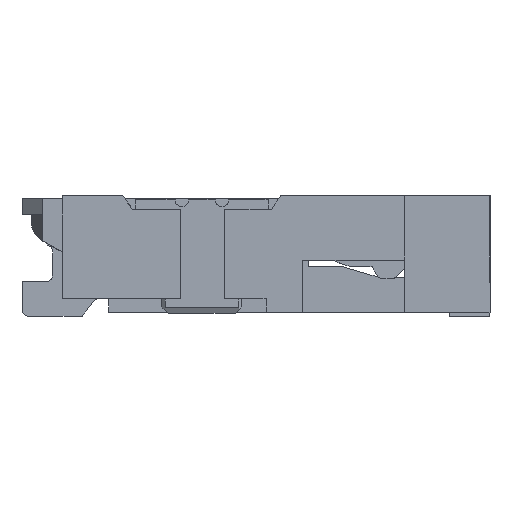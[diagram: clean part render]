
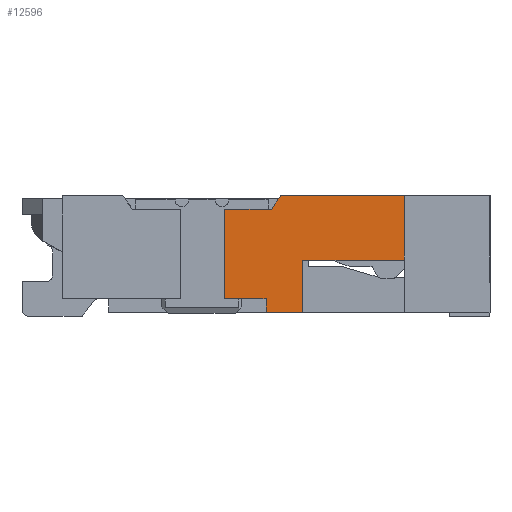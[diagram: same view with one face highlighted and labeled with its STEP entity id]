
A CAD part, front view. The second image highlights one B-rep face of the part: STEP entity #12596.
In plain terms, the highlighted planar face has unit normal (0, -1, 0).
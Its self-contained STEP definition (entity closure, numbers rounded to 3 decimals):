
#118 = VECTOR ( 'NONE', #11080, 1000. ) ;
#269 = LINE ( 'NONE', #13596, #10387 ) ;
#308 = CARTESIAN_POINT ( 'NONE',  ( -1.985, -2., 0.13 ) ) ;
#1067 = CARTESIAN_POINT ( 'NONE',  ( -1.4, -2., 0.42 ) ) ;
#1415 = VERTEX_POINT ( 'NONE', #5720 ) ;
#1537 = EDGE_CURVE ( 'NONE', #14572, #8796, #15223, .T. ) ;
#1563 = ORIENTED_EDGE ( 'NONE', *, *, #4198, .T. ) ;
#1825 = LINE ( 'NONE', #6548, #4688 ) ;
#1880 = DIRECTION ( 'NONE',  ( 0., 0., -1. ) ) ;
#1938 = EDGE_CURVE ( 'NONE', #5322, #13069, #269, .T. ) ;
#1959 = ORIENTED_EDGE ( 'NONE', *, *, #7680, .T. ) ;
#1979 = DIRECTION ( 'NONE',  ( 0., 0., -1. ) ) ;
#1993 = EDGE_CURVE ( 'NONE', #11945, #9592, #10000, .T. ) ;
#2047 = ORIENTED_EDGE ( 'NONE', *, *, #1993, .T. ) ;
#2225 = DIRECTION ( 'NONE',  ( 0., -1., 0. ) ) ;
#2317 = CARTESIAN_POINT ( 'NONE',  ( -1.4, -2., 0.03 ) ) ;
#2734 = EDGE_CURVE ( 'NONE', #8796, #9592, #14679, .T. ) ;
#3018 = VERTEX_POINT ( 'NONE', #5419 ) ;
#3137 = VECTOR ( 'NONE', #8504, 1000. ) ;
#3405 = DIRECTION ( 'NONE',  ( 0., 0., 1. ) ) ;
#3435 = CARTESIAN_POINT ( 'NONE',  ( -1.565, -2., 0.9 ) ) ;
#3440 = ORIENTED_EDGE ( 'NONE', *, *, #2734, .F. ) ;
#3575 = DIRECTION ( 'NONE',  ( 0., 0., -1. ) ) ;
#4025 = CARTESIAN_POINT ( 'NONE',  ( 0., -2., 0.03 ) ) ;
#4198 = EDGE_CURVE ( 'NONE', #6937, #1415, #1825, .T. ) ;
#4655 = EDGE_CURVE ( 'NONE', #1415, #9015, #13965, .T. ) ;
#4688 = VECTOR ( 'NONE', #14933, 1000. ) ;
#4889 = CARTESIAN_POINT ( 'NONE',  ( -1.4, -2., 0.42 ) ) ;
#5322 = VERTEX_POINT ( 'NONE', #3435 ) ;
#5419 = CARTESIAN_POINT ( 'NONE',  ( -0.64, -2., 0.42 ) ) ;
#5437 = ORIENTED_EDGE ( 'NONE', *, *, #1938, .F. ) ;
#5720 = CARTESIAN_POINT ( 'NONE',  ( -1.985, -2., 0.8 ) ) ;
#5860 = VECTOR ( 'NONE', #1880, 1000. ) ;
#5905 = ORIENTED_EDGE ( 'NONE', *, *, #7998, .T. ) ;
#6173 = DIRECTION ( 'NONE',  ( 1., 0., 0. ) ) ;
#6374 = VECTOR ( 'NONE', #7047, 1000. ) ;
#6548 = CARTESIAN_POINT ( 'NONE',  ( -1.835, -2., 0.8 ) ) ;
#6643 = VECTOR ( 'NONE', #7673, 1000. ) ;
#6724 = VECTOR ( 'NONE', #1979, 1000. ) ;
#6937 = VERTEX_POINT ( 'NONE', #9309 ) ;
#7008 = EDGE_LOOP ( 'NONE', ( #7850, #5437, #1959, #1563, #13800, #5905, #2047, #3440, #14094, #8914 ) ) ;
#7031 = LINE ( 'NONE', #11797, #3137 ) ;
#7047 = DIRECTION ( 'NONE',  ( -0.573, 0., -0.819 ) ) ;
#7429 = LINE ( 'NONE', #9527, #10462 ) ;
#7673 = DIRECTION ( 'NONE',  ( 0., 0., -1. ) ) ;
#7680 = EDGE_CURVE ( 'NONE', #5322, #6937, #12039, .T. ) ;
#7850 = ORIENTED_EDGE ( 'NONE', *, *, #9315, .F. ) ;
#7998 = EDGE_CURVE ( 'NONE', #9015, #11945, #7031, .T. ) ;
#8408 = CARTESIAN_POINT ( 'NONE',  ( -0.64, -2., 0.9 ) ) ;
#8494 = LINE ( 'NONE', #4889, #8929 ) ;
#8504 = DIRECTION ( 'NONE',  ( 1., 0., 0. ) ) ;
#8796 = VERTEX_POINT ( 'NONE', #2317 ) ;
#8805 = CARTESIAN_POINT ( 'NONE',  ( -1.675, -2., 0.03 ) ) ;
#8914 = ORIENTED_EDGE ( 'NONE', *, *, #8965, .T. ) ;
#8929 = VECTOR ( 'NONE', #14433, 1000. ) ;
#8965 = EDGE_CURVE ( 'NONE', #14572, #3018, #8494, .T. ) ;
#9015 = VERTEX_POINT ( 'NONE', #308 ) ;
#9309 = CARTESIAN_POINT ( 'NONE',  ( -1.635, -2., 0.8 ) ) ;
#9315 = EDGE_CURVE ( 'NONE', #13069, #3018, #7429, .T. ) ;
#9527 = CARTESIAN_POINT ( 'NONE',  ( -0.64, -2., 0.9 ) ) ;
#9592 = VERTEX_POINT ( 'NONE', #8805 ) ;
#10000 = LINE ( 'NONE', #14780, #6643 ) ;
#10387 = VECTOR ( 'NONE', #6173, 1000. ) ;
#10461 = FACE_OUTER_BOUND ( 'NONE', #7008, .T. ) ;
#10462 = VECTOR ( 'NONE', #3575, 1000. ) ;
#11080 = DIRECTION ( 'NONE',  ( -1., 0., 0. ) ) ;
#11797 = CARTESIAN_POINT ( 'NONE',  ( -1.835, -2., 0.13 ) ) ;
#11884 = CARTESIAN_POINT ( 'NONE',  ( -1.635, -2., 0.8 ) ) ;
#11945 = VERTEX_POINT ( 'NONE', #14415 ) ;
#12039 = LINE ( 'NONE', #11884, #6374 ) ;
#12596 = ADVANCED_FACE ( 'NONE', ( #10461 ), #14136, .T. ) ;
#12611 = CARTESIAN_POINT ( 'NONE',  ( -1.4, -2., 0.42 ) ) ;
#12626 = CARTESIAN_POINT ( 'NONE',  ( -1.835, -2., 1.927 ) ) ;
#13069 = VERTEX_POINT ( 'NONE', #8408 ) ;
#13596 = CARTESIAN_POINT ( 'NONE',  ( -3.2, -2., 0.9 ) ) ;
#13800 = ORIENTED_EDGE ( 'NONE', *, *, #4655, .T. ) ;
#13965 = LINE ( 'NONE', #14128, #6724 ) ;
#14061 = AXIS2_PLACEMENT_3D ( 'NONE', #12626, #2225, #3405 ) ;
#14094 = ORIENTED_EDGE ( 'NONE', *, *, #1537, .F. ) ;
#14128 = CARTESIAN_POINT ( 'NONE',  ( -1.985, -2., 1.927 ) ) ;
#14136 = PLANE ( 'NONE',  #14061 ) ;
#14415 = CARTESIAN_POINT ( 'NONE',  ( -1.675, -2., 0.13 ) ) ;
#14433 = DIRECTION ( 'NONE',  ( 1., 0., 0. ) ) ;
#14572 = VERTEX_POINT ( 'NONE', #1067 ) ;
#14679 = LINE ( 'NONE', #4025, #118 ) ;
#14780 = CARTESIAN_POINT ( 'NONE',  ( -1.675, -2., 0.13 ) ) ;
#14933 = DIRECTION ( 'NONE',  ( -1., 0., 0. ) ) ;
#15223 = LINE ( 'NONE', #12611, #5860 ) ;
